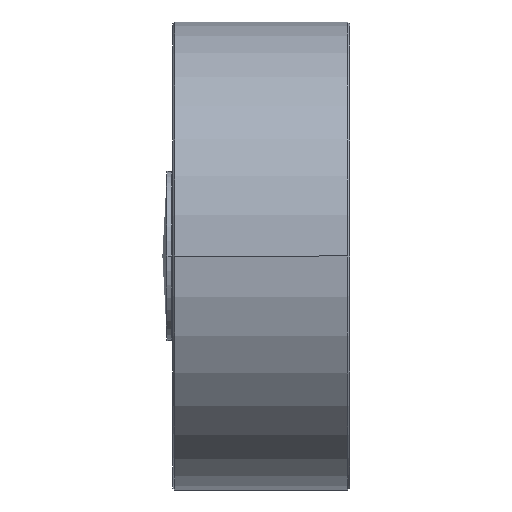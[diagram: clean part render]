
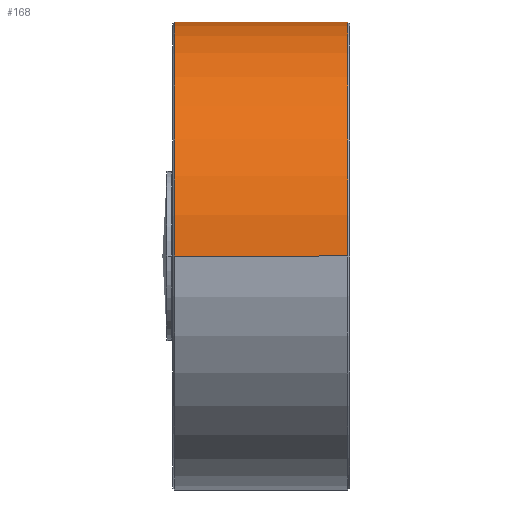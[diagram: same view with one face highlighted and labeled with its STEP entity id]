
A CAD part, left-side view. The second image highlights one B-rep face of the part: STEP entity #168.
In plain terms, the highlighted cylindrical face has radius 59.5 mm (diameter 119 mm), a partial arc.
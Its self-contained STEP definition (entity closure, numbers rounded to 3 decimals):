
#168=ADVANCED_FACE('',(#371),#372,.T.);
#371=FACE_OUTER_BOUND('',#709,.T.);
#372=CYLINDRICAL_SURFACE('',#710,59.5);
#709=EDGE_LOOP('',(#1269,#1270,#1271,#1272,#1273,#1274));
#710=AXIS2_PLACEMENT_3D('',#1275,#1276,#1277);
#1269=ORIENTED_EDGE('',*,*,#2252,.F.);
#1270=ORIENTED_EDGE('',*,*,#2253,.F.);
#1271=ORIENTED_EDGE('',*,*,#2254,.F.);
#1272=ORIENTED_EDGE('',*,*,#2255,.F.);
#1273=ORIENTED_EDGE('',*,*,#2256,.F.);
#1274=ORIENTED_EDGE('',*,*,#2191,.T.);
#1275=CARTESIAN_POINT('',(0.0,22.5,0.0));
#1276=DIRECTION('',(0.0,-1.0,0.0));
#1277=DIRECTION('',(1.0,0.0,0.0));
#2191=EDGE_CURVE('',#2604,#2608,#2610,.T.);
#2252=EDGE_CURVE('',#2724,#2608,#2727,.T.);
#2253=EDGE_CURVE('',#2720,#2724,#2728,.T.);
#2254=EDGE_CURVE('',#2729,#2720,#2730,.T.);
#2255=EDGE_CURVE('',#2731,#2729,#2732,.T.);
#2256=EDGE_CURVE('',#2604,#2731,#2733,.T.);
#2604=VERTEX_POINT('',#3201);
#2608=VERTEX_POINT('',#3206);
#2610=B_SPLINE_CURVE_WITH_KNOTS('',3,(#3209,#3210,#3211,#3212,#3213,#3214,#3215,#3216,#3217,#3218,#3219,#3220,#3221,#3222,#3223,#3224,#3225,#3226),.UNSPECIFIED.,.F.,.F.,(4,2,2,2,2,2,2,2,4),(0.98,1.225,1.47,1.715,1.96,2.206,2.451,2.696,2.941),.UNSPECIFIED.);
#2720=VERTEX_POINT('',#3368);
#2724=VERTEX_POINT('',#3373);
#2727=LINE('',#3377,#3378);
#2728=CIRCLE('',#3379,59.5);
#2729=VERTEX_POINT('',#3380);
#2730=LINE('',#3381,#3382);
#2731=VERTEX_POINT('',#3383);
#2732=CIRCLE('',#3384,59.5);
#2733=LINE('',#3385,#3386);
#3201=CARTESIAN_POINT('',(59.5,2.5,0.0));
#3206=CARTESIAN_POINT('',(59.5,15.5,0.));
#3209=CARTESIAN_POINT('',(59.5,2.5,0.0));
#3210=CARTESIAN_POINT('',(59.5,2.5,0.817));
#3211=CARTESIAN_POINT('',(59.481,2.663,1.688));
#3212=CARTESIAN_POINT('',(59.414,3.327,3.289));
#3213=CARTESIAN_POINT('',(59.367,3.827,4.019));
#3214=CARTESIAN_POINT('',(59.278,4.981,5.173));
#3215=CARTESIAN_POINT('',(59.23,5.711,5.673));
#3216=CARTESIAN_POINT('',(59.163,7.312,6.337));
#3217=CARTESIAN_POINT('',(59.144,8.183,6.5));
#3218=CARTESIAN_POINT('',(59.144,9.817,6.5));
#3219=CARTESIAN_POINT('',(59.163,10.688,6.337));
#3220=CARTESIAN_POINT('',(59.23,12.289,5.673));
#3221=CARTESIAN_POINT('',(59.278,13.019,5.173));
#3222=CARTESIAN_POINT('',(59.367,14.173,4.019));
#3223=CARTESIAN_POINT('',(59.414,14.673,3.289));
#3224=CARTESIAN_POINT('',(59.481,15.337,1.688));
#3225=CARTESIAN_POINT('',(59.5,15.5,0.817));
#3226=CARTESIAN_POINT('',(59.5,15.5,0.));
#3368=CARTESIAN_POINT('',(-59.5,44.5,0.));
#3373=CARTESIAN_POINT('',(59.5,44.5,0.));
#3377=CARTESIAN_POINT('',(59.5,22.5,0.));
#3378=VECTOR('',#4275,1.0);
#3379=AXIS2_PLACEMENT_3D('',#4276,#4277,#4278);
#3380=CARTESIAN_POINT('',(-59.5,0.5,0.));
#3381=CARTESIAN_POINT('',(-59.5,22.5,0.));
#3382=VECTOR('',#4279,1.0);
#3383=CARTESIAN_POINT('',(59.5,0.5,0.));
#3384=AXIS2_PLACEMENT_3D('',#4280,#4281,#4282);
#3385=CARTESIAN_POINT('',(59.5,22.5,0.));
#3386=VECTOR('',#4283,1.0);
#4275=DIRECTION('',(0.0,-1.0,0.0));
#4276=CARTESIAN_POINT('',(0.0,44.5,0.0));
#4277=DIRECTION('',(0.0,1.0,0.0));
#4278=DIRECTION('',(-1.0,0.0,0.0));
#4279=DIRECTION('',(0.0,1.0,0.0));
#4280=CARTESIAN_POINT('',(0.0,0.5,0.0));
#4281=DIRECTION('',(0.0,-1.0,0.0));
#4282=DIRECTION('',(-1.0,0.0,0.0));
#4283=DIRECTION('',(0.0,-1.0,0.0));
